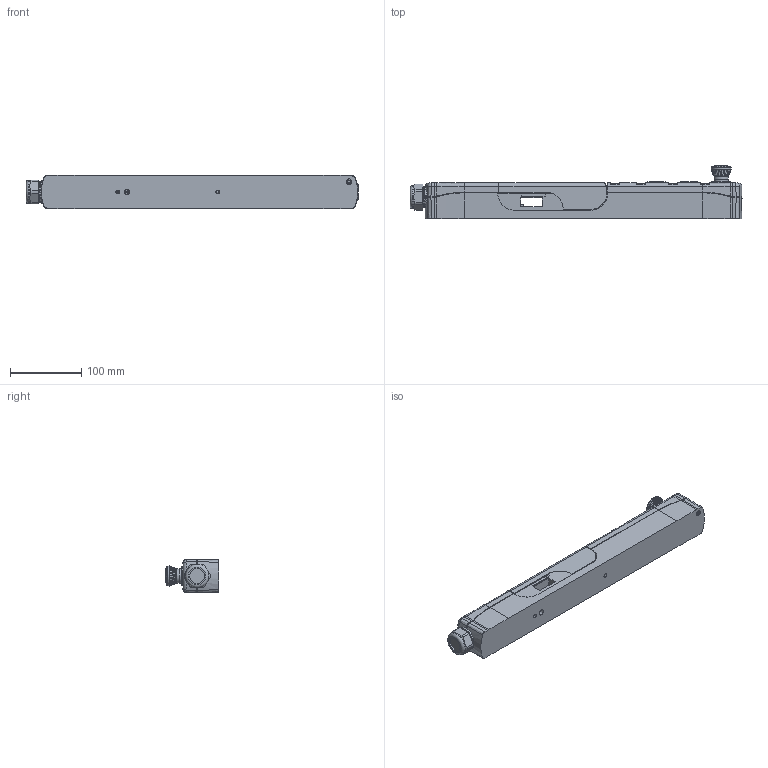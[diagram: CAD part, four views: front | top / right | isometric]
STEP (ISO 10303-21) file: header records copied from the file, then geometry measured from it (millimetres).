
FILE_DESCRIPTION((''),'2;1');
FILE_NAME('D:\_Vault\Workspace\Projektordner\Sensoren\PSENsgate\Kundendaten\H303635_A_Kundendaten_PSEN sg2c-3xxx.stp','2014-03-18T12:51:19',('jeberle'),(''),'Autodesk Inventor 2013','Autodesk Inventor 2013','');
FILE_SCHEMA(('CONFIG_CONTROL_DESIGN'));
Length unit declared in the file: millimetre
Products named in the file (1): H303635_PSEN_sg2c-3xxxx
Bounding box: 464.66 x 74.35 x 46.25 mm (x, y, z)
Volume: 992418.9 mm3; surface area: 106194 mm2
Topology: 2 solids, 2 shells, 964 faces, 2507 edges, 1561 vertices
Faces by surface type: plane 423, cylinder 269, bspline 136, cone 56, torus 43, sphere 37
Full cylindrical faces by diameter (mm): 1.948 x1, 4 x1, 4.969 x4, 5.5 x2, 7.7 x5, 8.1 x1, 11 x2, 17.8 x1, 17.9 x1, 19.65 x1, 19.67 x1, 19.75 x1, 19.85 x2, 19.9 x1, 20.05 x2, 21 x1, 21.92 x1, 22.68 x1, 23.44 x1, 24.2 x1, 24.96 x1, 25.72 x1, 26.48 x1, 26.5 x1, 27 x3, 27.24 x1, 27.4 x3, 27.9 x2, 28 x1, 32.8 x1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
Entity records: 36642 total; most frequent: CARTESIAN_POINT 14628, ORIENTED_EDGE 4738, DIRECTION 4216, EDGE_CURVE 2369, AXIS2_PLACEMENT_3D 1565, VERTEX_POINT 1522, VECTOR 1086, LINE 1086
